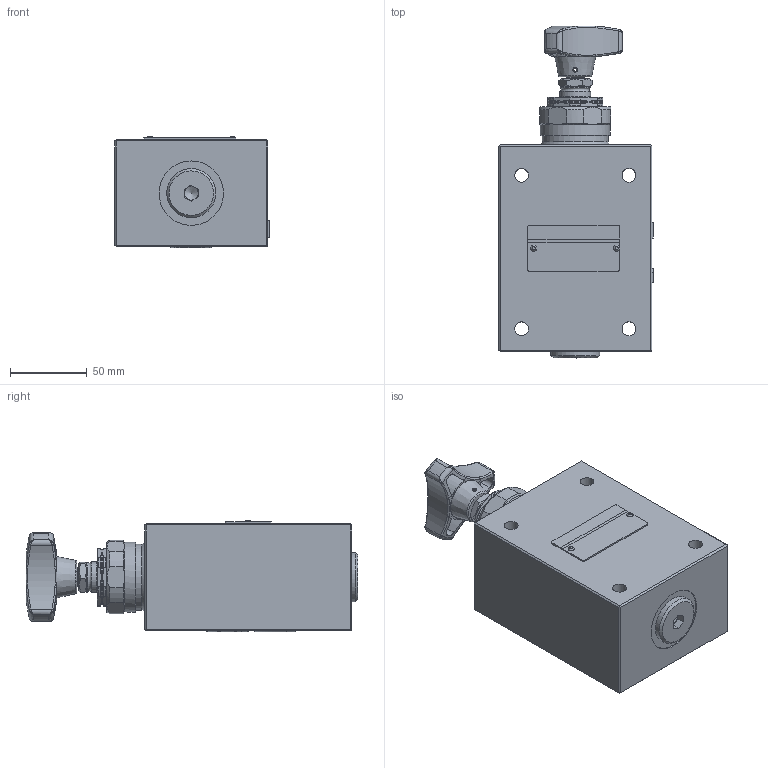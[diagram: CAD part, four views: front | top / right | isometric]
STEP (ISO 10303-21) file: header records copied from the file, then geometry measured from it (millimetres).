
FILE_DESCRIPTION(/* description */ (''),/* implementation_level */ '2;1');
FILE_NAME(/* name */ 'DBDH20P-1XJ直动型板式溢流阀.prt.stp',/* time_stamp */ '2022-03-30T20:14:03+08:00',/* author */ (''),/* organization */ (''),/* preprocessor_version */ 'ST-DEVELOPER v16.7',/* originating_system */ 'SIEMENS PLM Software NX 12.0',/* authorisation */ '');
FILE_SCHEMA (('AUTOMOTIVE_DESIGN { 1 0 10303 214 3 1 1 1 }'));
Products named in the file (1): DBDH20P-1XJ直动型板式溢流阀
Bounding box: 101 x 216.32 x 72.5 mm (x, y, z)
Volume: 1052207.7 mm3; surface area: 145501.9 mm2
Topology: 31 solids, 32 shells, 785 faces, 1826 edges, 1114 vertices
Faces by surface type: plane 329, cylinder 189, torus 103, cone 89, bspline 66, extrusion 8, sphere 1
Full cylindrical faces by diameter (mm): 1 x1, 1.5 x2, 1.8 x2, 1.9 x4, 3 x2, 3.1 x2, 4 x1, 5.5 x3, 6 x5, 7.8 x1, 9 x5, 9.4 x5, 9.7 x1, 10 x16, 10.2 x1, 10.976 x1, 11.7 x2, 17 x3, 19.7 x1, 20 x3, 22.7 x1, 24 x1, 24.3 x5, 26 x1, 27.4 x2, 28 x1, 28.5 x1, 30 x1, 31 x1, 32 x1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
Entity records: 40729 total; most frequent: CARTESIAN_POINT 25219, DIRECTION 2952, ORIENTED_EDGE 2936, EDGE_CURVE 1468, AXIS2_PLACEMENT_3D 1241, EDGE_LOOP 1049, VERTEX_POINT 1025, ADVANCED_FACE 767
